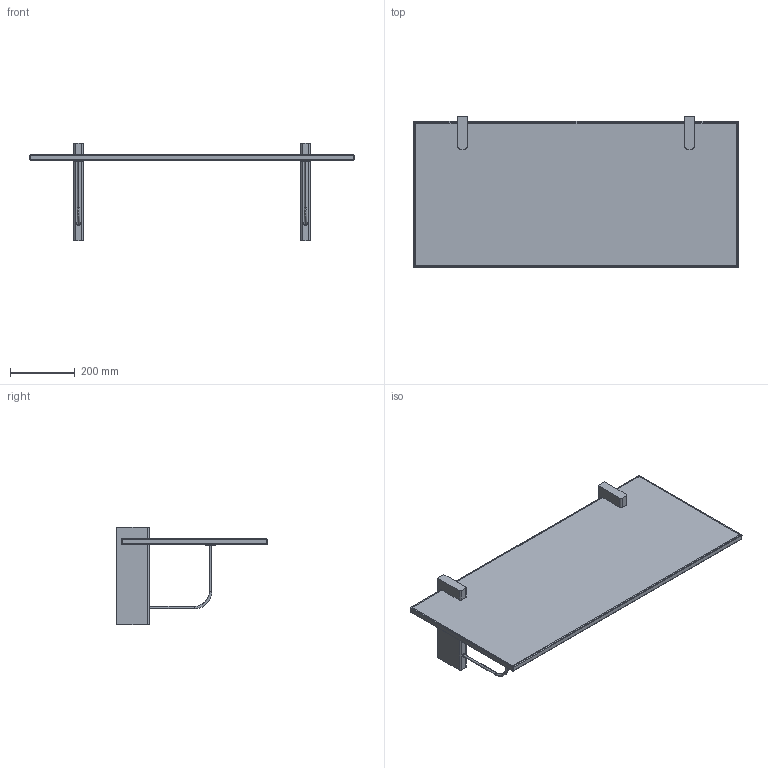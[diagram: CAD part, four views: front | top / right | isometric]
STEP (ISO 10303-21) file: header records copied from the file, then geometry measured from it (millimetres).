
FILE_DESCRIPTION(/* description */ (''),/* implementation_level */ '2;1');
FILE_NAME(/* name */ 'Corbel Desk',/* time_stamp */ '2024-01-29T15:25:05+01:00',/* author */ (''),/* organization */ (''),/* preprocessor_version */ 'ST-DEVELOPER v16.5',/* originating_system */ 'Rhino 7.31',/* authorisation */ '');
FILE_SCHEMA (('AUTOMOTIVE_DESIGN'));
Length unit declared in the file: millimetre
Products named in the file (1): Document
Bounding box: 1000 x 465 x 300 mm (x, y, z)
Volume: 8951924.8 mm3; surface area: 1251785.2 mm2
Topology: 14 solids, 20 shells, 226 faces, 528 edges, 346 vertices
Faces by surface type: plane 96, cylinder 76, bspline 54
Entity records: 10953 total; most frequent: CARTESIAN_POINT 7344, ORIENTED_EDGE 1024, EDGE_CURVE 518, VERTEX_POINT 336, B_SPLINE_CURVE_WITH_KNOTS 320, EDGE_LOOP 262, ADVANCED_FACE 226, FACE_OUTER_BOUND 226
